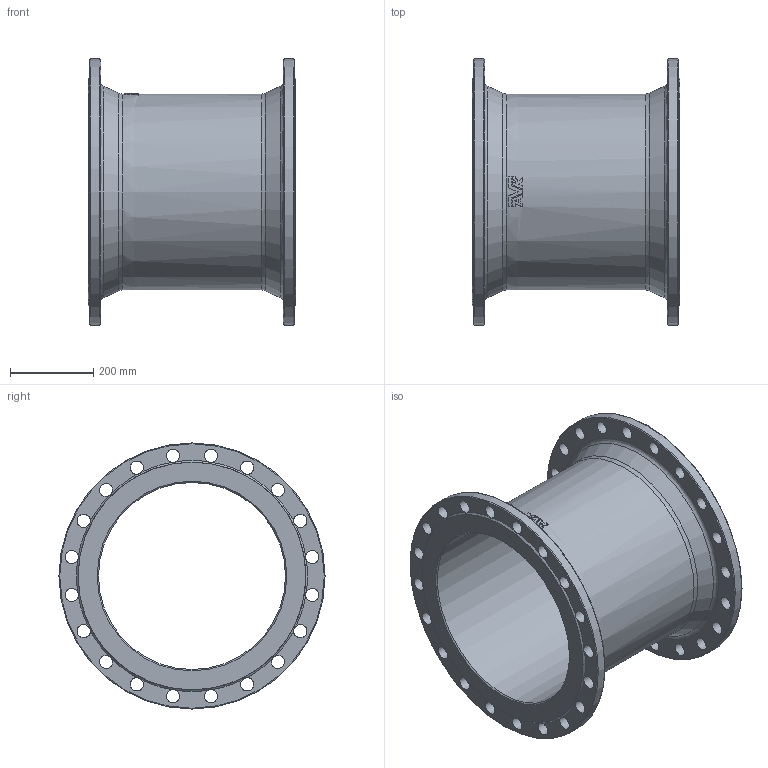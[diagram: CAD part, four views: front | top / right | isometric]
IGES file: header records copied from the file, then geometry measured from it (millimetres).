
Start section: SolidWorks IGES file using analytic representation for surfaces
Global section: file name: \\avksan2\techshare\PBM outline export from Enovia\O_712_4810_DN450_1X_REV01.igs; native system: SolidWorks 2019; preprocessor: SolidWorks 2019; author: pbm; date: 211202.085954; units: millimetre
Bounding box: 500 x 640 x 640 mm (x, y, z)
Surface area: 2064557.2 mm2 (no closed solid volume)
Topology: 0 solids, 0 shells, 105 faces, 692 edges, 633 vertices
Faces by surface type: revolution 62, bspline 43
